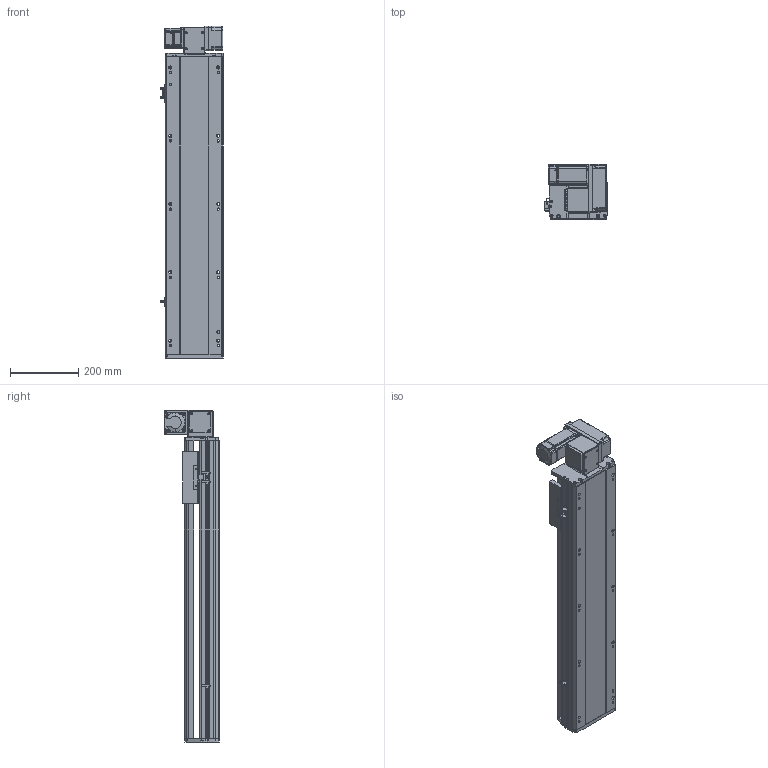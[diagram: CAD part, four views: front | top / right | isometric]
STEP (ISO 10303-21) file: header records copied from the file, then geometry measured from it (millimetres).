
FILE_DESCRIPTION (( 'STEP AP214' ), '1' );
FILE_NAME ('RTB17S-XX-600-RW-M40-C4.STEP', '2025-12-11T08:51:13', ( '' ), ( '' ), 'SwSTEP 2.0', 'SolidWorks 2018', '' );
FILE_SCHEMA (( 'AUTOMOTIVE_DESIGN' ));
Length unit declared in the file: millimetre
Products named in the file (14): OMRON EE-SX672 传感器^RTB17S-XX-XX-RW-M40-C4; RTB17S-L-007奻裔^RTB17S-XX-XX-RW-M40-C4; RTB14-L-018P^RTB17S-RW-々湍釱蚾饜-400W_RTB17S-XX-XX-RW-M40-C4; RTB17-R-011菁釱^RTB17S-XX-XX-RW-M40-C4; RTB17S-XX-600-RW-M40-C4; RTB17S-L-001耜醱啣^RTB17S-XX-XX-RW-M40-C4; RTB14-L-017P^RTB17S-RW-々湍釱蚾饜-400W_RTB17S-XX-XX-RW-M40-C4; RTB17S-RW-々湍釱蚾饜-400W^RTB17S-XX-XX-RW-M40-C4; RTB14-L-005P--轴承塑胶压盖^RTB17S-RW-皮带座装配-400W_RTB17S-XX-XX-RW-M40-C4; RMP17S-L-014-T20--々湍釱^RTB17S-RW-々湍釱蚾饜-400W_RTB17S-XX-XX-RW-M40-C4; RTH13-BL-012覜茼え俋离^RTB17S-XX-XX-RW-M40-C4; 400W侜督萇儂^RTB17S-XX-XX-RW-M40-C4; RTB17S-L-004佪裝蹟譫蟀諉釱^RTB17S-XX-XX-RW-M40-C4; RTB14-L-008-M20--萇儂啣^RTB17S-RW-々湍釱蚾饜-400W_RTB17S-XX-XX-RW-M40-C4
Assembly tree (16 placements, depth 3):
  RTB17S-XX-600-RW-M40-C4
    RTB17-R-011菁釱^RTB17S-XX-XX-RW-M40-C4
    RTB17S-L-007奻裔^RTB17S-XX-XX-RW-M40-C4
    OMRON EE-SX672 传感器^RTB17S-XX-XX-RW-M40-C4  x3
    RTB17S-L-001耜醱啣^RTB17S-XX-XX-RW-M40-C4
    400W侜督萇儂^RTB17S-XX-XX-RW-M40-C4
    RTB17S-L-004佪裝蹟譫蟀諉釱^RTB17S-XX-XX-RW-M40-C4
    RTH13-BL-012覜茼え俋离^RTB17S-XX-XX-RW-M40-C4
    RTB17S-RW-々湍釱蚾饜-400W^RTB17S-XX-XX-RW-M40-C4
      RMP17S-L-014-T20--々湍釱^RTB17S-RW-々湍釱蚾饜-400W_RTB17S-XX-XX-RW-M40-C4
      RTB14-L-005P--轴承塑胶压盖^RTB17S-RW-皮带座装配-400W_RTB17S-XX-XX-RW-M40-C4
      RTB14-L-008-M20--萇儂啣^RTB17S-RW-々湍釱蚾饜-400W_RTB17S-XX-XX-RW-M40-C4
      RTB14-L-017P^RTB17S-RW-々湍釱蚾饜-400W_RTB17S-XX-XX-RW-M40-C4  x2
      RTB14-L-018P^RTB17S-RW-々湍釱蚾饜-400W_RTB17S-XX-XX-RW-M40-C4
Bounding box: 183.5 x 160.5 x 972.5 mm (x, y, z)
Volume: 9115026 mm3; surface area: 1141449 mm2
Topology: 15 solids, 15 shells, 2173 faces, 5979 edges, 3897 vertices
Faces by surface type: plane 1064, cylinder 661, bspline 301, cone 139, torus 8
Entity records: 61097 total; most frequent: CARTESIAN_POINT 16984, ORIENTED_EDGE 8802, DIRECTION 8216, EDGE_CURVE 4401, VERTEX_POINT 2885, AXIS2_PLACEMENT_3D 2815, VECTOR 2586, LINE 2586
